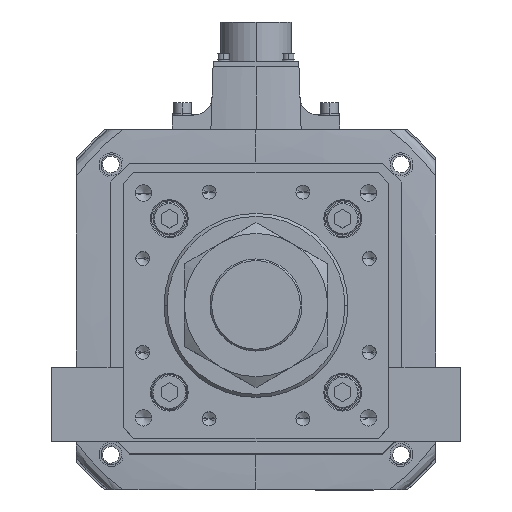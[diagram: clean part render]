
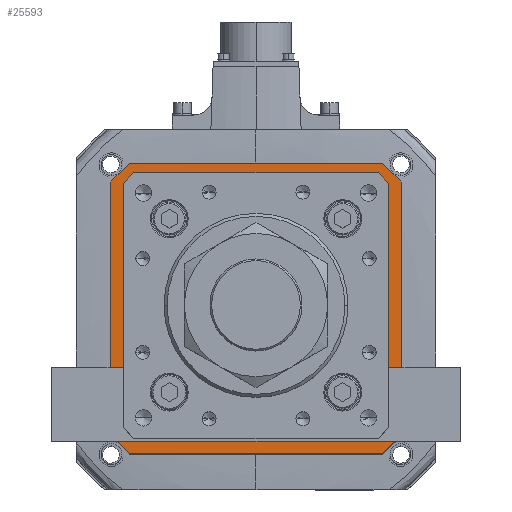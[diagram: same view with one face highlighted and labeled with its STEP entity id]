
A CAD part, top view. The second image highlights one B-rep face of the part: STEP entity #25593.
In plain terms, the highlighted planar face has unit normal (0, 0, 1).
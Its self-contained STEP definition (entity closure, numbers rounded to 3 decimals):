
#1472 = EDGE_CURVE ( 'NONE', #33114, #23452, #29323, .T. ) ;
#1853 = CARTESIAN_POINT ( 'NONE',  ( 62., 71., -142. ) ) ;
#2335 = LINE ( 'NONE', #18761, #46867 ) ;
#2347 = ORIENTED_EDGE ( 'NONE', *, *, #33779, .T. ) ;
#2471 = VERTEX_POINT ( 'NONE', #53414 ) ;
#4247 = LINE ( 'NONE', #34924, #46771 ) ;
#4730 = CARTESIAN_POINT ( 'NONE',  ( -58.793, 63., -142. ) ) ;
#4874 = DIRECTION ( 'NONE',  ( -0.707, -0.707, 0. ) ) ;
#5242 = CARTESIAN_POINT ( 'NONE',  ( 63., 58.793, -142. ) ) ;
#8242 = CARTESIAN_POINT ( 'NONE',  ( -71., 62., -142. ) ) ;
#8347 = CARTESIAN_POINT ( 'NONE',  ( 62., -71., -142. ) ) ;
#8778 = VECTOR ( 'NONE', #21592, 1000. ) ;
#9001 = CARTESIAN_POINT ( 'NONE',  ( 0., -63., -142. ) ) ;
#9459 = EDGE_LOOP ( 'NONE', ( #37407, #29762, #26790, #25812, #36113, #34252, #55230, #23882 ) ) ;
#9471 = EDGE_CURVE ( 'NONE', #35700, #49428, #50618, .T. ) ;
#9497 = DIRECTION ( 'NONE',  ( 0.707, -0.707, 0. ) ) ;
#9939 = CARTESIAN_POINT ( 'NONE',  ( 62., -71., -142. ) ) ;
#10132 = VERTEX_POINT ( 'NONE', #4730 ) ;
#10437 = LINE ( 'NONE', #55872, #33410 ) ;
#10765 = LINE ( 'NONE', #9001, #8778 ) ;
#10781 = VERTEX_POINT ( 'NONE', #9939 ) ;
#11162 = VERTEX_POINT ( 'NONE', #41788 ) ;
#11736 = LINE ( 'NONE', #45974, #54939 ) ;
#12391 = ORIENTED_EDGE ( 'NONE', *, *, #52845, .T. ) ;
#12538 = CARTESIAN_POINT ( 'NONE',  ( 0., 0., -142. ) ) ;
#13735 = EDGE_CURVE ( 'NONE', #10132, #24410, #19736, .T. ) ;
#13847 = EDGE_CURVE ( 'NONE', #22800, #32170, #23811, .T. ) ;
#14525 = LINE ( 'NONE', #50417, #55682 ) ;
#14576 = ORIENTED_EDGE ( 'NONE', *, *, #37415, .T. ) ;
#15241 = EDGE_CURVE ( 'NONE', #10781, #33114, #41972, .T. ) ;
#15715 = FACE_OUTER_BOUND ( 'NONE', #9459, .T. ) ;
#16042 = DIRECTION ( 'NONE',  ( 0.707, 0.707, 0. ) ) ;
#16897 = CARTESIAN_POINT ( 'NONE',  ( 60.896, -60.896, -142. ) ) ;
#17467 = AXIS2_PLACEMENT_3D ( 'NONE', #12538, #42774, #21604 ) ;
#18287 = CARTESIAN_POINT ( 'NONE',  ( 60.896, 60.896, -142. ) ) ;
#18355 = VERTEX_POINT ( 'NONE', #5242 ) ;
#18529 = EDGE_CURVE ( 'NONE', #18355, #22800, #2335, .T. ) ;
#18761 = CARTESIAN_POINT ( 'NONE',  ( 63., 0., -142. ) ) ;
#19675 = VECTOR ( 'NONE', #45216, 1000. ) ;
#19736 = LINE ( 'NONE', #46581, #31241 ) ;
#21592 = DIRECTION ( 'NONE',  ( -1., 0., 0. ) ) ;
#21604 = DIRECTION ( 'NONE',  ( 1., 0., 0. ) ) ;
#21663 = CARTESIAN_POINT ( 'NONE',  ( 63., -58.793, -142. ) ) ;
#21698 = VERTEX_POINT ( 'NONE', #42216 ) ;
#22015 = VECTOR ( 'NONE', #39503, 1000. ) ;
#22800 = VERTEX_POINT ( 'NONE', #21663 ) ;
#23452 = VERTEX_POINT ( 'NONE', #47466 ) ;
#23811 = LINE ( 'NONE', #16897, #40717 ) ;
#23882 = ORIENTED_EDGE ( 'NONE', *, *, #9471, .F. ) ;
#24410 = VERTEX_POINT ( 'NONE', #41051 ) ;
#25593 = ADVANCED_FACE ( 'NONE', ( #48137, #15715 ), #38435, .T. ) ;
#25812 = ORIENTED_EDGE ( 'NONE', *, *, #1472, .F. ) ;
#26142 = EDGE_CURVE ( 'NONE', #49428, #21698, #4247, .T. ) ;
#26296 = CARTESIAN_POINT ( 'NONE',  ( -63., 0., -142. ) ) ;
#26677 = LINE ( 'NONE', #8242, #35485 ) ;
#26790 = ORIENTED_EDGE ( 'NONE', *, *, #31252, .F. ) ;
#26875 = VECTOR ( 'NONE', #9497, 1000. ) ;
#27128 = ORIENTED_EDGE ( 'NONE', *, *, #53897, .T. ) ;
#27218 = CARTESIAN_POINT ( 'NONE',  ( -62., -71., -142. ) ) ;
#29323 = LINE ( 'NONE', #27218, #50915 ) ;
#29762 = ORIENTED_EDGE ( 'NONE', *, *, #47672, .F. ) ;
#30184 = CARTESIAN_POINT ( 'NONE',  ( 58.793, -63., -142. ) ) ;
#30649 = DIRECTION ( 'NONE',  ( 0., 1., 0. ) ) ;
#31241 = VECTOR ( 'NONE', #42976, 1000. ) ;
#31252 = EDGE_CURVE ( 'NONE', #23452, #32466, #26677, .T. ) ;
#31527 = ORIENTED_EDGE ( 'NONE', *, *, #18529, .T. ) ;
#31848 = VECTOR ( 'NONE', #55475, 1000. ) ;
#32170 = VERTEX_POINT ( 'NONE', #30184 ) ;
#32401 = VECTOR ( 'NONE', #52556, 1000. ) ;
#32466 = VERTEX_POINT ( 'NONE', #49033 ) ;
#32738 = CARTESIAN_POINT ( 'NONE',  ( -62., -71., -142. ) ) ;
#32799 = EDGE_CURVE ( 'NONE', #32170, #33028, #10765, .T. ) ;
#33028 = VERTEX_POINT ( 'NONE', #40633 ) ;
#33114 = VERTEX_POINT ( 'NONE', #32738 ) ;
#33410 = VECTOR ( 'NONE', #38723, 1000. ) ;
#33779 = EDGE_CURVE ( 'NONE', #24410, #18355, #34324, .T. ) ;
#34252 = ORIENTED_EDGE ( 'NONE', *, *, #46725, .F. ) ;
#34324 = LINE ( 'NONE', #18287, #26875 ) ;
#34924 = CARTESIAN_POINT ( 'NONE',  ( 71., 62., -142. ) ) ;
#35261 = ORIENTED_EDGE ( 'NONE', *, *, #32799, .T. ) ;
#35282 = DIRECTION ( 'NONE',  ( 0., -1., 0. ) ) ;
#35485 = VECTOR ( 'NONE', #46719, 1000. ) ;
#35700 = VERTEX_POINT ( 'NONE', #47338 ) ;
#36113 = ORIENTED_EDGE ( 'NONE', *, *, #15241, .F. ) ;
#36472 = DIRECTION ( 'NONE',  ( -0.707, 0.707, 0. ) ) ;
#37407 = ORIENTED_EDGE ( 'NONE', *, *, #38803, .F. ) ;
#37415 = EDGE_CURVE ( 'NONE', #2471, #10132, #11736, .T. ) ;
#37593 = ORIENTED_EDGE ( 'NONE', *, *, #13847, .T. ) ;
#37974 = LINE ( 'NONE', #1853, #19675 ) ;
#38126 = LINE ( 'NONE', #26296, #54984 ) ;
#38158 = CARTESIAN_POINT ( 'NONE',  ( 71., 62., -142. ) ) ;
#38435 = PLANE ( 'NONE',  #17467 ) ;
#38723 = DIRECTION ( 'NONE',  ( -0.707, 0.707, 0. ) ) ;
#38803 = EDGE_CURVE ( 'NONE', #48772, #35700, #37974, .T. ) ;
#39503 = DIRECTION ( 'NONE',  ( -0.707, -0.707, 0. ) ) ;
#40633 = CARTESIAN_POINT ( 'NONE',  ( -58.793, -63., -142. ) ) ;
#40717 = VECTOR ( 'NONE', #4874, 1000. ) ;
#41051 = CARTESIAN_POINT ( 'NONE',  ( 58.793, 63., -142. ) ) ;
#41788 = CARTESIAN_POINT ( 'NONE',  ( -63., -58.793, -142. ) ) ;
#41972 = LINE ( 'NONE', #8347, #31848 ) ;
#42216 = CARTESIAN_POINT ( 'NONE',  ( 71., -62., -142. ) ) ;
#42774 = DIRECTION ( 'NONE',  ( 0., 0., 1. ) ) ;
#42976 = DIRECTION ( 'NONE',  ( 1., 0., 0. ) ) ;
#43678 = CARTESIAN_POINT ( 'NONE',  ( 71., 62., -142. ) ) ;
#44399 = CARTESIAN_POINT ( 'NONE',  ( 71., -62., -142. ) ) ;
#45216 = DIRECTION ( 'NONE',  ( 1., 0., 0. ) ) ;
#45700 = LINE ( 'NONE', #44399, #22015 ) ;
#45974 = CARTESIAN_POINT ( 'NONE',  ( -60.896, 60.896, -142. ) ) ;
#46156 = DIRECTION ( 'NONE',  ( 0.707, 0.707, 0. ) ) ;
#46362 = EDGE_LOOP ( 'NONE', ( #31527, #37593, #35261, #12391, #27128, #14576, #47263, #2347 ) ) ;
#46581 = CARTESIAN_POINT ( 'NONE',  ( 0., 63., -142. ) ) ;
#46719 = DIRECTION ( 'NONE',  ( 0., 1., 0. ) ) ;
#46725 = EDGE_CURVE ( 'NONE', #21698, #10781, #45700, .T. ) ;
#46771 = VECTOR ( 'NONE', #35282, 1000. ) ;
#46867 = VECTOR ( 'NONE', #49171, 1000. ) ;
#47263 = ORIENTED_EDGE ( 'NONE', *, *, #13735, .T. ) ;
#47338 = CARTESIAN_POINT ( 'NONE',  ( 62., 71., -142. ) ) ;
#47466 = CARTESIAN_POINT ( 'NONE',  ( -71., -62., -142. ) ) ;
#47672 = EDGE_CURVE ( 'NONE', #32466, #48772, #14525, .T. ) ;
#48137 = FACE_BOUND ( 'NONE', #46362, .T. ) ;
#48772 = VERTEX_POINT ( 'NONE', #55726 ) ;
#49033 = CARTESIAN_POINT ( 'NONE',  ( -71., 62., -142. ) ) ;
#49171 = DIRECTION ( 'NONE',  ( 0., -1., 0. ) ) ;
#49428 = VERTEX_POINT ( 'NONE', #38158 ) ;
#50417 = CARTESIAN_POINT ( 'NONE',  ( -62., 71., -142. ) ) ;
#50618 = LINE ( 'NONE', #43678, #32401 ) ;
#50915 = VECTOR ( 'NONE', #36472, 1000. ) ;
#52556 = DIRECTION ( 'NONE',  ( 0.707, -0.707, 0. ) ) ;
#52845 = EDGE_CURVE ( 'NONE', #33028, #11162, #10437, .T. ) ;
#53414 = CARTESIAN_POINT ( 'NONE',  ( -63., 58.793, -142. ) ) ;
#53897 = EDGE_CURVE ( 'NONE', #11162, #2471, #38126, .T. ) ;
#54939 = VECTOR ( 'NONE', #46156, 1000. ) ;
#54984 = VECTOR ( 'NONE', #30649, 1000. ) ;
#55230 = ORIENTED_EDGE ( 'NONE', *, *, #26142, .F. ) ;
#55475 = DIRECTION ( 'NONE',  ( -1., 0., 0. ) ) ;
#55682 = VECTOR ( 'NONE', #16042, 1000. ) ;
#55726 = CARTESIAN_POINT ( 'NONE',  ( -62., 71., -142. ) ) ;
#55872 = CARTESIAN_POINT ( 'NONE',  ( -60.896, -60.896, -142. ) ) ;
